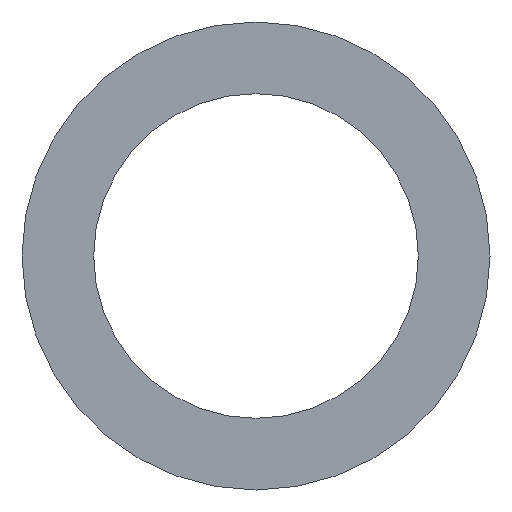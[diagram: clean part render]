
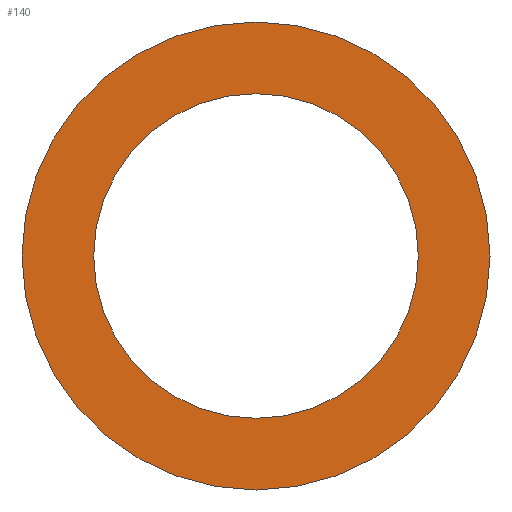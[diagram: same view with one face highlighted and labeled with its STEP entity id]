
A CAD part, front view. The second image highlights one B-rep face of the part: STEP entity #140.
In plain terms, the highlighted planar face has unit normal (0, -1, 0).
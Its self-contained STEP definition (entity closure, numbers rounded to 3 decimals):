
#31 = CYLINDRICAL_SURFACE('',#32,16.);
#32 = AXIS2_PLACEMENT_3D('',#33,#34,#35);
#33 = CARTESIAN_POINT('',(220.,-145.913,125.));
#34 = DIRECTION('',(0.,1.,0.));
#35 = DIRECTION('',(0.,-0.,1.));
#56 = VERTEX_POINT('',#57);
#57 = CARTESIAN_POINT('',(220.,-145.913,141.));
#78 = EDGE_CURVE('',#56,#56,#79,.T.);
#79 = SURFACE_CURVE('',#80,(#85,#92),.PCURVE_S1.);
#80 = CIRCLE('',#81,16.);
#81 = AXIS2_PLACEMENT_3D('',#82,#83,#84);
#82 = CARTESIAN_POINT('',(220.,-145.913,125.));
#83 = DIRECTION('',(0.,1.,0.));
#84 = DIRECTION('',(0.,-0.,1.));
#85 = PCURVE('',#31,#86);
#86 = DEFINITIONAL_REPRESENTATION('',(#87),#91);
#87 = LINE('',#88,#89);
#88 = CARTESIAN_POINT('',(0.,0.));
#89 = VECTOR('',#90,1.);
#90 = DIRECTION('',(1.,0.));
#91 = ( GEOMETRIC_REPRESENTATION_CONTEXT(2) 
PARAMETRIC_REPRESENTATION_CONTEXT() REPRESENTATION_CONTEXT('2D SPACE',''
  ) );
#92 = PCURVE('',#93,#98);
#93 = PLANE('',#94);
#94 = AXIS2_PLACEMENT_3D('',#95,#96,#97);
#95 = CARTESIAN_POINT('',(220.,-145.913,125.));
#96 = DIRECTION('',(0.,1.,0.));
#97 = DIRECTION('',(0.,-0.,1.));
#98 = DEFINITIONAL_REPRESENTATION('',(#99),#103);
#99 = CIRCLE('',#100,16.);
#100 = AXIS2_PLACEMENT_2D('',#101,#102);
#101 = CARTESIAN_POINT('',(0.,0.));
#102 = DIRECTION('',(1.,0.));
#103 = ( GEOMETRIC_REPRESENTATION_CONTEXT(2) 
PARAMETRIC_REPRESENTATION_CONTEXT() REPRESENTATION_CONTEXT('2D SPACE',''
  ) );
#129 = CYLINDRICAL_SURFACE('',#130,11.1);
#130 = AXIS2_PLACEMENT_3D('',#131,#132,#133);
#131 = CARTESIAN_POINT('',(220.,-145.913,125.));
#132 = DIRECTION('',(0.,1.,0.));
#133 = DIRECTION('',(0.,-0.,1.));
#140 = ADVANCED_FACE('',(#141,#144),#93,.F.);
#141 = FACE_BOUND('',#142,.F.);
#142 = EDGE_LOOP('',(#143));
#143 = ORIENTED_EDGE('',*,*,#78,.T.);
#144 = FACE_BOUND('',#145,.F.);
#145 = EDGE_LOOP('',(#146));
#146 = ORIENTED_EDGE('',*,*,#147,.F.);
#147 = EDGE_CURVE('',#148,#148,#150,.T.);
#148 = VERTEX_POINT('',#149);
#149 = CARTESIAN_POINT('',(220.,-145.913,136.1));
#150 = SURFACE_CURVE('',#151,(#156,#163),.PCURVE_S1.);
#151 = CIRCLE('',#152,11.1);
#152 = AXIS2_PLACEMENT_3D('',#153,#154,#155);
#153 = CARTESIAN_POINT('',(220.,-145.913,125.));
#154 = DIRECTION('',(0.,1.,0.));
#155 = DIRECTION('',(0.,-0.,1.));
#156 = PCURVE('',#93,#157);
#157 = DEFINITIONAL_REPRESENTATION('',(#158),#162);
#158 = CIRCLE('',#159,11.1);
#159 = AXIS2_PLACEMENT_2D('',#160,#161);
#160 = CARTESIAN_POINT('',(0.,0.));
#161 = DIRECTION('',(1.,0.));
#162 = ( GEOMETRIC_REPRESENTATION_CONTEXT(2) 
PARAMETRIC_REPRESENTATION_CONTEXT() REPRESENTATION_CONTEXT('2D SPACE',''
  ) );
#163 = PCURVE('',#129,#164);
#164 = DEFINITIONAL_REPRESENTATION('',(#165),#169);
#165 = LINE('',#166,#167);
#166 = CARTESIAN_POINT('',(0.,0.));
#167 = VECTOR('',#168,1.);
#168 = DIRECTION('',(1.,0.));
#169 = ( GEOMETRIC_REPRESENTATION_CONTEXT(2) 
PARAMETRIC_REPRESENTATION_CONTEXT() REPRESENTATION_CONTEXT('2D SPACE',''
  ) );
